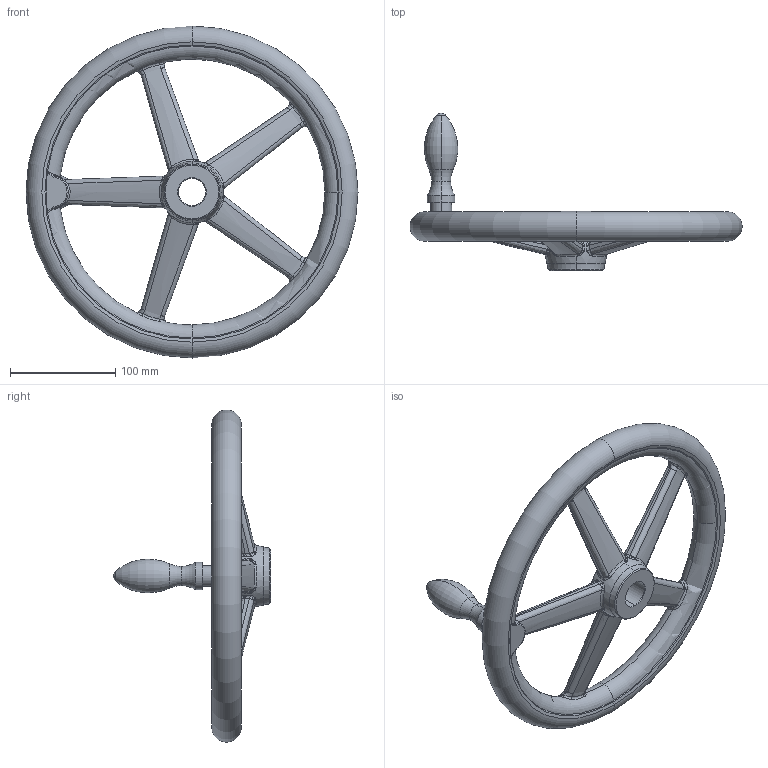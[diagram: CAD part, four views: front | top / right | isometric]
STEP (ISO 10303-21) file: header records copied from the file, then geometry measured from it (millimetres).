
FILE_DESCRIPTION (( 'STEP AP203' ), '1' );
FILE_NAME ('din950_d4_315x26.step', '2010-03-23T10:17:17', ( '_' ), ( '_' ), 'SwSTEP 2.0', 'SolidWorks 2010', '' );
FILE_SCHEMA (( 'CONFIG_CONTROL_DESIGN' ));
Length unit declared in the file: millimetre
Products named in the file (1): din950_d4_315x26
Bounding box: 314.89 x 149.5 x 314.89 mm (x, y, z)
Volume: 889612.2 mm3; surface area: 134982.3 mm2
Topology: 1 solids, 1 shells, 280 faces, 692 edges, 361 vertices
Faces by surface type: bspline 208, torus 26, plane 16, cone 16, cylinder 12, sphere 2
Entity records: 53728 total; most frequent: CARTESIAN_POINT 48568, ORIENTED_EDGE 1296, DIRECTION 658, EDGE_CURVE 648, B_SPLINE_CURVE_WITH_KNOTS 379, VERTEX_POINT 361, AXIS2_PLACEMENT_3D 316, EDGE_LOOP 283
